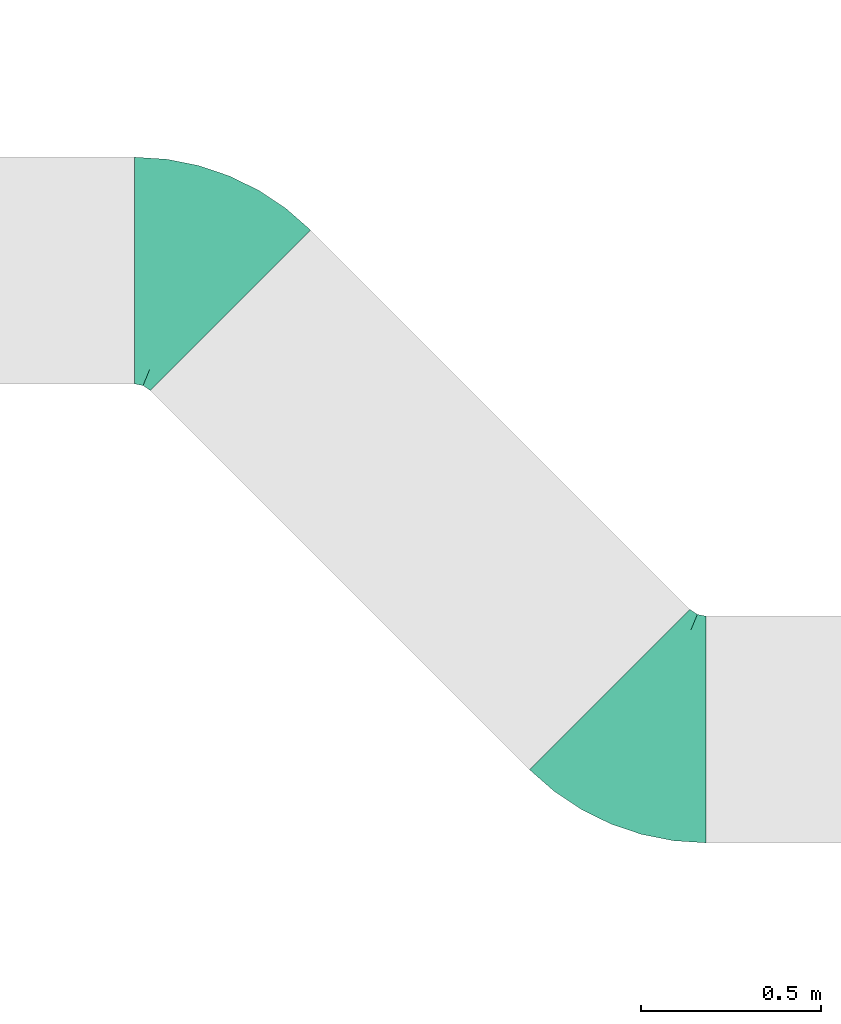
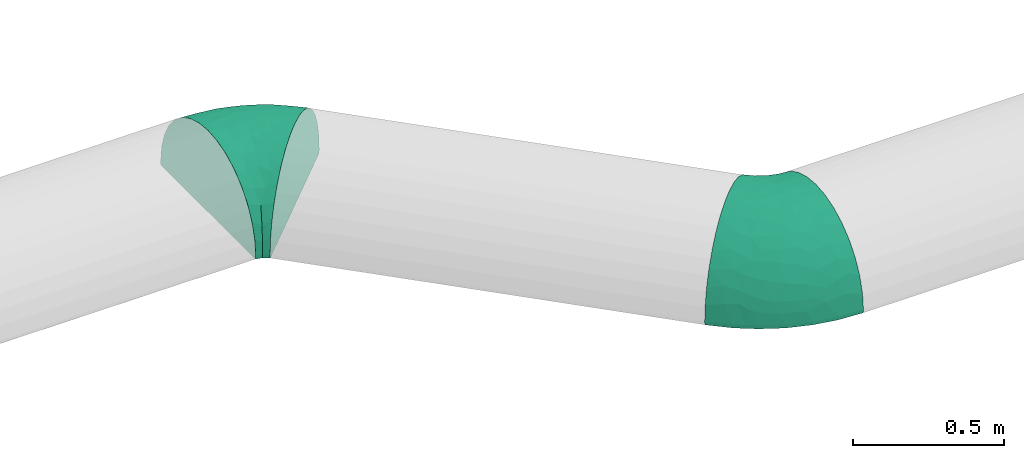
# One storey, part 9 of 10: 2 flow fittings.
"""IFC2X3 building model written with IfcOpenShell, lengths in millimetres."""

from ifc_helpers import new_model, entity, si_unit, converted_unit, derived_unit, direction, frame, place, context, subcontext, project, spatial, faceted_brep, type_object, element, save


model = new_model("IFC2X3")

# Units and contexts
model_context = context("Model", 3, precision=0.01, world=frame((0.0, 4.29681676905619e-09, 0.0)), true_north=direction((4.01073788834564e-13, 1.0)))
plan_context = context("Plan", 3, precision=0.01, world=frame((0.0, 4.29681676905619e-09, 0.0)), true_north=direction((4.01073788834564e-13, 1.0)))
body_context = subcontext(model_context, "Body", "Model", "MODEL_VIEW")
ifc_project = project(units=[converted_unit("PLANEANGLEUNIT", "DEGREE", entity("IfcPositiveLengthMeasure", 0.0174532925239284), si_unit("PLANEANGLEUNIT", "RADIAN"), dimensions=[0, 0, 0, 0, 0, 0, 0]), si_unit("AREAUNIT", "SQUARE_METRE"), si_unit("LENGTHUNIT", "METRE", prefix="MILLI"), si_unit("MASSUNIT", "GRAM", prefix="KILO"), si_unit("POWERUNIT", "WATT"), si_unit("PRESSUREUNIT", "PASCAL"), si_unit("FORCEUNIT", "NEWTON", prefix="KILO"), si_unit("ELECTRICCURRENTUNIT", "AMPERE"), si_unit("THERMODYNAMICTEMPERATUREUNIT", "DEGREE_CELSIUS"), si_unit("TIMEUNIT", "SECOND"), si_unit("VOLUMEUNIT", "CUBIC_METRE"), derived_unit("LINEARVELOCITYUNIT", [(si_unit("LENGTHUNIT", "METRE"), 1), (si_unit("TIMEUNIT", "SECOND"), -1)]), derived_unit("VOLUMETRICFLOWRATEUNIT", [(si_unit("VOLUMEUNIT", "CUBIC_METRE"), 1), (si_unit("TIMEUNIT", "SECOND"), -1)]), derived_unit("THERMALTRANSMITTANCEUNIT", [(si_unit("POWERUNIT", "WATT"), 1), (si_unit("THERMODYNAMICTEMPERATUREUNIT", "KELVIN"), -1), (si_unit("AREAUNIT", "SQUARE_METRE"), -1)])], contexts=[model_context, plan_context])

# Site, building, storey
site_placement = place(None, frame((0.0, -4.29681676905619e-09, 0.0), z_axis=(0.0, 0.0, 1.0), x_axis=(1.0, 0.0, 0.0)))
site = spatial("IfcSite", under=ifc_project, at=site_placement, CompositionType="ELEMENT")
building_placement = place(site_placement, frame((0.0, 4.29681676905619e-09, 0.0), z_axis=(0.0, 0.0, 1.0), x_axis=(1.0, 0.0, 0.0)))
building = spatial("IfcBuilding", under=site, at=building_placement, Name="mc-building", CompositionType="ELEMENT")
storey_placement = place(building_placement, frame((0.0, 0.0, 200300.0), z_axis=(0.0, 0.0, 1.0), x_axis=(1.0, 0.0, 0.0)))
storey = spatial("IfcBuildingStorey", under=building, at=storey_placement, Name="Nivå C", CompositionType="ELEMENT", Elevation=200300.0)

# Flow fittings
duct_fitting_type = type_object("IfcDuctFittingType", Name="magicirc_elbow_short_001", PredefinedType="BEND")
flow_fitting_1_placement = place(storey_placement, frame((517261.78125, 411281.0, 2715.0), z_axis=(0.0, 0.0, 1.0), x_axis=(-0.707106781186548, 0.707106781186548, 0.0)))
element("IfcFlowFitting", 1, at=flow_fitting_1_placement, inside=storey, type_object=duct_fitting_type, Name="magicirc_elbow_short_001", context=body_context, shape_type="Brep", body=[
    faceted_brep([(-156.57273, -313.522625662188, -15.0), (-156.57273, -162.702443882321, -15.0), (-156.57273, -315.0, 0.0), (-156.57273, 313.522625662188, -15.0), (-156.57273, 315.0, 0.0), (-156.57273, -222.73864, 222.73864), (-156.57273, -308.94735, 61.45345), (-156.57273, -291.02204, 120.54529), (-156.57273, -261.91292, 175.00462), (-156.57273, 61.45345, 308.94735), (-156.57273, -175.00462, 261.91292), (-156.57273, -61.45345, 308.94735), (-156.57273, 0.0, 315.0), (-156.57273, -120.54529, 291.02204), (-156.57273, 222.73864, 222.73864), (-156.57273, 175.00462, 261.91292), (-156.57273, 120.54529, 291.02204), (-156.57273, 308.94735, 61.45345), (-156.57273, 261.91292, 175.00462), (-156.57273, 291.02204, 120.54529), (-104.937846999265, 326.365126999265, -15.0001016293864), (-77.0594836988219, 298.486762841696, -15.000101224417), (-112.025, 333.45228, 0.0), (84.2447156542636, 137.182548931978, -15.0010429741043), (-95.07003, 316.49729, 120.54529), (158.052910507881, 63.3743635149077, -15.0009110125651), (-46.78636, 268.21364, 222.73864), (220.316167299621, 1.11110270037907, -15.0002036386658), (67.25948, 154.16779, 308.94735), (284.770704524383, -63.3434305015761, -15.0001948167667), (268.21364, -46.78636, 222.73864), (330.234755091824, -108.807475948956, -15.0002164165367), (333.45228, -112.025, 0.0), (316.49729, -95.07003, 120.54529), (329.17242, -107.74514, 61.45345), (295.91404, -74.48677, 175.00462), (331.342094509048, -109.914816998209, -15.0028352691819), (332.407534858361, -110.980254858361, -15.0012367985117), (234.4606, -13.03332, 261.91292), (154.16779, 67.25948, 308.94735), (110.71364, 110.71364, 315.0), (195.95203, 25.47525, 291.02204), (-13.03332, 234.4606, 261.91292), (25.47525, 195.95203, 291.02204), (-74.48677, 295.91404, 175.00462), (-107.74514, 329.17242, 61.45345), (-106.355653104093, 327.782933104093, -15.0), (-110.980340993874, 332.407620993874, -15.0), (-69.1788, 98.28548, 303.32883), (-103.18815, 137.218, 286.29822), (-63.56373, 145.87028, 287.85212), (-23.03173, 84.61123, 310.04546), (-24.06275, 169.9928, 286.29822), (-78.98637, 190.68994, 261.74409), (-50.09666, 221.58455, 252.16235), (-82.85164, 253.22455, 211.90038), (-114.29281, 275.92723, 166.31154), (-120.47185, 237.64176, 211.90038), (-121.26026, 192.10762, 252.16235), (-108.97903, 80.13704, 305.60489), (-120.04051, 21.57121, 314.38314), (-72.93723, 14.96959, 314.95269), (-51.32282, 52.93784, 312.89874), (-22.61288, 5.88574, 314.51394), (-49.4951, -24.41314, 312.64876), (-102.18653, -42.98473, 311.55144), (-39.73703, -67.19447, 304.06678), (18.9701, -45.79794, 304.48316), (9.38154, -103.44024, 286.35821), (-37.48165, -112.43527, 288.40126), (8.63747, -148.4273, 262.75168), (-39.60369, -163.18888, 261.45699), (-86.18068, -104.84619, 295.18796), (-102.50615, -158.52715, 270.6016), (-97.23886, -208.88262, 233.09715), (-80.86841, -251.39761, 183.63745), (-16.92433, -220.44586, 208.04239), (-24.55467, -254.26311, 165.69601), (-34.1256, -280.90317, 117.70077), (13.26489, -277.43879, 98.85769), (-6.71661, -292.99434, 58.47592), (39.43986, -283.24089, 45.6037), (59.91756, -267.248, 87.51982), (30.69597, -247.39286, 153.9285), (102.32705, -228.19892, 142.01391), (104.77862, -250.85, 86.12694), (148.3429, -231.85854, 83.11677), (162.22033, -204.09557, 132.72111), (189.96299, -208.51086, 85.28279), (220.74556, -179.01978, 111.02522), (189.11035, -165.11365, 169.05373), (253.88425, -145.87382, 128.67191), (226.77953, -191.35583, 64.21371), (284.48919, -144.49324, 75.71434), (285.52999, -112.12506, 140.2424), (245.9957, -108.28443, 187.26034), (205.29396, -92.14908, 229.95035), (164.01968, -137.81243, 215.95297), (136.78809, -94.09597, 260.01013), (110.65003, -144.85352, 235.51538), (94.19844, -106.84865, 266.54763), (89.45677, -54.27607, 291.49943), (140.68797, -5.97514, 296.0552), (182.98391, -41.68599, 270.24152), (112.78616, 56.37757, 312.25194), (83.48947, 17.37206, 310.12159), (58.46281, 84.1732, 314.69351), (20.93585, 134.47437, 305.53288), (18.18904, 78.0699, 313.48381), (20.38675, 29.52839, 314.73867), (57.88992, -22.3422, 305.6526), (55.89296, -89.8795, 284.1951), (57.37725, -134.20034, 260.50814), (70.87883, -168.34825, 231.3295), (-1.17554, -186.93521, 236.63272), (60.87911, -202.67108, 201.58359), (127.24687, -182.31133, 191.51469), (307.49264, -134.79099, 0.0), (312.784396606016, -128.189444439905, -15.0), (302.359024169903, -137.235849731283, -15.0), (-9.02958368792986, -296.511113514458, -15.0), (-22.5637488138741, -299.357531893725, -15.0), (-21.6646, -300.22895, 0.0), (-55.6441643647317, -305.937630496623, -15.0), (-66.11808, -309.07129, 0.0), (-72.0014284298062, -307.906902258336, -15.0), (-116.759709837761, -310.840505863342, -15.0), (-122.1185, -312.74174, 0.0), (-130.528336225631, -311.815578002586, -15.0), (-91.05773, -303.16209, 73.4979), (-99.82817, -282.36418, 134.59297), (-48.92146, -296.29754, 79.36992), (-118.013964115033, 328.102919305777, -15.0), (-132.026457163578, 318.740072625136, -15.0), (-132.46367, 319.7956, 0.0), (-148.555323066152, 315.452270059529, -15.0), (-131.0731, 316.43846, 47.708), (-125.4043, 302.75274, 106.21365), (22.78887, -291.38659, 0.0), (22.1633903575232, -290.306434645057, -15.0), (52.2796347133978, -280.083347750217, -15.0), (65.70788, -276.81755, 0.0), (72.8363150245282, -273.691596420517, -15.0), (101.07091036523, -264.107243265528, -15.0), (108.62689, -262.24851, 0.0), (85.57396, -268.0606, 43.73739), (127.11369, -251.00261, 43.25426), (149.27708, -242.20206, 0.0), (142.323303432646, -244.897392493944, -15.0), (115.581265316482, -258.085102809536, -15.0), (171.18274, -229.41071, 41.93156), (189.92727, -222.15561, 0.0), (189.60575865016, -220.949538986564, -15.0), (161.08154396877, -235.016121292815, -15.0), (216.049890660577, -203.280130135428, -15.0), (227.61311, -196.97473, 0.0), (227.632717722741, -195.722752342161, -15.0), (255.676933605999, -176.984203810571, -15.0), (265.29894, -171.79386, 0.0), (268.63575034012, -166.810357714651, -15.0), (332.407620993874, -110.980340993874, -15.0), (331.342493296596, -109.915215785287, -15.0), (330.234801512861, -108.807522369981, -15.0), (284.770690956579, -63.3434169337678, -15.0), (220.316071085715, 1.11119891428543, -15.0), (158.052125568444, 63.3751484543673, -15.0), (84.2433358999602, 137.183928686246, -15.0), (-77.0597196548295, 298.486998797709, -15.0000000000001), (-104.937895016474, 326.365175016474, -15.0000000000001)], [[[0, 1, 2]], [[1, 3, 4, 2]], [[5, 2, 4]], [[2, 5, 6]], [[7, 6, 5]], [[5, 8, 7]], [[4, 9, 5]], [[10, 5, 9]], [[11, 10, 9]], [[9, 12, 11]], [[13, 10, 11]], [[14, 9, 4]], [[14, 15, 9]], [[16, 9, 15]], [[14, 4, 17]], [[14, 17, 18]], [[19, 18, 17]], [[20, 21, 22]], [[21, 23, 24, 22]], [[23, 25, 26, 24]], [[25, 27, 28, 26]], [[27, 29, 30, 28]], [[29, 31, 32, 30]], [[32, 33, 30]], [[34, 33, 32]], [[33, 35, 30]], [[31, 36, 32]], [[36, 37, 32]], [[28, 30, 38]], [[38, 39, 28]], [[28, 39, 40]], [[39, 38, 41]], [[28, 42, 26]], [[42, 28, 43]], [[44, 24, 26]], [[24, 45, 22]], [[46, 20, 22]], [[47, 46, 22]], [[48, 49, 50]], [[48, 50, 51]], [[52, 51, 50]], [[50, 53, 52]], [[53, 54, 52]], [[55, 54, 53]], [[26, 54, 55]], [[55, 44, 26]], [[44, 55, 56]], [[55, 57, 56]], [[57, 18, 56]], [[57, 14, 18]], [[14, 57, 58]], [[53, 58, 57]], [[53, 49, 58]], [[15, 58, 49]], [[49, 16, 15]], [[49, 59, 16]], [[59, 9, 16]], [[9, 59, 60]], [[61, 60, 59]], [[61, 59, 62]], [[63, 61, 62]], [[61, 63, 64]], [[61, 64, 65]], [[66, 65, 64]], [[66, 64, 67]], [[68, 66, 67]], [[68, 69, 66]], [[68, 70, 69]], [[71, 69, 70]], [[69, 71, 72]], [[71, 73, 72]], [[71, 74, 73]], [[10, 73, 74]], [[10, 74, 5]], [[5, 74, 75]], [[75, 74, 76]], [[77, 75, 76]], [[77, 78, 75]], [[78, 77, 79]], [[78, 79, 80]], [[80, 79, 81]], [[82, 81, 79]], [[82, 79, 83]], [[83, 84, 82]], [[85, 82, 84]], [[85, 84, 86]], [[87, 86, 84]], [[88, 86, 87]], [[87, 89, 88]], [[90, 89, 87]], [[89, 90, 91]], [[91, 92, 89]], [[91, 93, 92]], [[91, 94, 93]], [[91, 95, 94]], [[35, 94, 95]], [[94, 35, 33]], [[30, 35, 95]], [[96, 30, 95]], [[96, 95, 90]], [[96, 90, 97]], [[97, 98, 96]], [[98, 97, 99]], [[98, 99, 100]], [[98, 100, 101]], [[98, 101, 102]], [[102, 103, 98]], [[41, 103, 102]], [[103, 41, 38]], [[103, 38, 96]], [[41, 102, 39]], [[102, 104, 39]], [[105, 104, 102]], [[104, 105, 106]], [[40, 104, 106]], [[106, 28, 40]], [[107, 28, 106]], [[106, 108, 107]], [[108, 106, 109]], [[51, 108, 109]], [[51, 109, 63]], [[63, 109, 67]], [[67, 109, 110]], [[67, 110, 111]], [[110, 101, 111]], [[101, 110, 105]], [[105, 110, 109]], [[51, 107, 108]], [[107, 43, 28]], [[107, 52, 43]], [[43, 52, 42]], [[109, 106, 105]], [[39, 104, 40]], [[105, 102, 101]], [[100, 111, 101]], [[112, 111, 100]], [[112, 68, 111]], [[112, 100, 99]], [[112, 99, 113]], [[70, 112, 113]], [[113, 114, 70]], [[113, 115, 114]], [[115, 113, 116]], [[115, 116, 84]], [[114, 115, 76]], [[114, 76, 71]], [[83, 76, 115]], [[99, 116, 113]], [[99, 97, 116]], [[96, 98, 103]], [[116, 97, 90]], [[96, 38, 30]], [[93, 94, 33]], [[34, 93, 33]], [[34, 117, 93]], [[34, 32, 117]], [[37, 118, 117, 32]], [[118, 119, 117]], [[120, 121, 122]], [[121, 123, 124, 122]], [[123, 125, 124]], [[125, 126, 127, 124]], [[126, 128, 127]], [[128, 0, 2, 127]], [[127, 2, 6]], [[6, 129, 127]], [[129, 6, 7]], [[130, 129, 7]], [[131, 129, 130]], [[124, 129, 131]], [[78, 131, 130]], [[130, 7, 8]], [[130, 8, 75]], [[132, 47, 22]], [[133, 132, 22, 134]], [[135, 133, 134, 4]], [[3, 135, 4]], [[136, 4, 134]], [[17, 4, 136]], [[17, 136, 137]], [[45, 137, 136]], [[45, 136, 22]], [[137, 45, 24]], [[56, 137, 24]], [[19, 137, 56]], [[137, 19, 17]], [[22, 136, 134]], [[127, 129, 124]], [[131, 122, 124]], [[122, 131, 80]], [[138, 122, 80]], [[139, 120, 122, 138]], [[140, 139, 138, 141]], [[142, 140, 141]], [[143, 142, 141, 144]], [[145, 144, 141]], [[146, 144, 145]], [[147, 144, 146]], [[148, 149, 144, 147]], [[150, 147, 146]], [[86, 150, 146]], [[150, 151, 147]], [[152, 153, 147, 151]], [[154, 152, 151, 155]], [[156, 154, 155]], [[157, 156, 155, 158]], [[159, 157, 158]], [[155, 92, 158]], [[155, 151, 92]], [[151, 150, 92]], [[88, 92, 150]], [[85, 146, 145]], [[145, 141, 81]], [[141, 138, 81]], [[149, 143, 144]], [[153, 148, 147]], [[119, 159, 158, 117]], [[158, 93, 117]], [[158, 92, 93]], [[91, 90, 95]], [[90, 87, 116]], [[88, 89, 92]], [[86, 88, 150]], [[84, 116, 87]], [[146, 85, 86]], [[85, 145, 82]], [[115, 84, 83]], [[82, 145, 81]], [[138, 80, 81]], [[78, 80, 131]], [[83, 79, 77]], [[130, 75, 78]], [[83, 77, 76]], [[75, 8, 5]], [[10, 13, 73]], [[71, 76, 74]], [[72, 73, 13]], [[11, 72, 13]], [[72, 11, 65]], [[11, 12, 65]], [[12, 60, 65]], [[71, 70, 114]], [[68, 112, 70]], [[69, 72, 66]], [[68, 67, 111]], [[72, 65, 66]], [[64, 63, 67]], [[63, 62, 51]], [[48, 62, 59]], [[61, 65, 60]], [[9, 60, 12]], [[14, 58, 15]], [[56, 18, 19]], [[56, 24, 44]], [[54, 26, 42]], [[57, 55, 53]], [[52, 54, 42]], [[52, 107, 51]], [[51, 62, 48]], [[59, 49, 48]], [[49, 53, 50]], [[128, 126, 125, 123, 121, 120, 139, 140, 142, 143, 149, 148, 153, 152, 154, 156, 157, 159, 119, 118, 160, 161, 162, 163, 164, 165, 166, 167, 168, 46, 47, 132, 133, 135, 3, 1, 0]]], orient=[[False], [False], [False], [False], [False], [False], [False], [False], [False], [False], [False], [False], [False], [False], [False], [False], [False], [False], [False], [False], [False], [False], [False], [False], [False], [False], [False], [False], [False], [False], [False], [False], [False], [False], [False], [False], [False], [False], [False], [False], [False], [False], [False], [False], [False], [False], [False], [False], [False], [False], [False], [False], [False], [False], [False], [False], [False], [False], [False], [False], [False], [False], [False], [False], [False], [False], [False], [False], [False], [False], [False], [False], [False], [False], [False], [False], [False], [False], [False], [False], [False], [False], [False], [False], [False], [False], [False], [False], [False], [False], [False], [False], [False], [False], [False], [False], [False], [False], [False], [False], [False], [False], [False], [False], [False], [False], [False], [False], [False], [False], [False], [False], [False], [False], [False], [False], [False], [False], [False], [False], [False], [False], [False], [False], [False], [False], [False], [False], [False], [False], [False], [False], [False], [False], [False], [False], [False], [False], [False], [False], [False], [False], [False], [False], [False], [False], [False], [False], [False], [False], [False], [False], [False], [False], [False], [False], [False], [False], [False], [False], [False], [False], [False], [False], [False], [False], [False], [False], [False], [False], [False], [False], [False], [False], [False], [False], [False], [False], [False], [False], [False], [False], [False], [False], [False], [False], [False], [False], [False], [False], [False], [False], [False], [False], [False], [False], [False], [False], [False], [False], [False], [False], [False], [False], [False], [False], [False], [False], [False], [False], [False], [False], [False], [False], [False], [False], [False], [False], [False], [False], [False], [False], [False], [False], [False], [False], [False], [False], [False], [False], [False], [False], [False], [False], [False], [False], [False], [False], [False], [False], [False], [False], [False], [False], [False], [False], [False], [False], [False], [False], [False], [False], [False], [False], [False], [False], [False], [False], [False], [False], [False], [False]]),
])
flow_fitting_2_placement = place(storey_placement, frame((518537.24375, 410005.5375, 2715.0), z_axis=(0.0, 0.0, 1.0), x_axis=(0.707106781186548, -0.707106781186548, 0.0)))
element("IfcFlowFitting", 2, at=flow_fitting_2_placement, inside=storey, type_object=duct_fitting_type, Name="magicirc_elbow_short_001", context=body_context, shape_type="Brep", body=[
    faceted_brep([(-156.57273, -313.522625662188, -15.0), (-156.57273, -162.702443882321, -15.0), (-156.57273, -315.0, 0.0), (-156.57273, 313.522625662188, -15.0), (-156.57273, 315.0, 0.0), (-156.57273, -222.73864, 222.73864), (-156.57273, -308.94735, 61.45345), (-156.57273, -291.02204, 120.54529), (-156.57273, -261.91292, 175.00462), (-156.57273, 61.45345, 308.94735), (-156.57273, -175.00462, 261.91292), (-156.57273, -61.45345, 308.94735), (-156.57273, 0.0, 315.0), (-156.57273, -120.54529, 291.02204), (-156.57273, 222.73864, 222.73864), (-156.57273, 175.00462, 261.91292), (-156.57273, 120.54529, 291.02204), (-156.57273, 308.94735, 61.45345), (-156.57273, 261.91292, 175.00462), (-156.57273, 291.02204, 120.54529), (-104.937849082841, 326.365129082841, -15.0000972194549), (-77.0594939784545, 298.486773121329, -15.0000968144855), (-112.025, 333.45228, 0.0), (84.2446541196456, 137.182610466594, -15.0009964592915), (-95.07003, 316.49729, 120.54529), (158.052875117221, 63.3743989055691, -15.0008699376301), (-46.78636, 268.21364, 222.73864), (220.316162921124, 1.11110707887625, -15.0001943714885), (67.25948, 154.16779, 308.94735), (284.770703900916, -63.3434298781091, -15.0001858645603), (268.21364, -46.78636, 222.73864), (330.234757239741, -108.807478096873, -15.000206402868), (333.45228, -112.025, 0.0), (316.49729, -95.07003, 120.54529), (329.17242, -107.74514, 61.45345), (295.91404, -74.48677, 175.00462), (331.342078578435, -109.914801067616, -15.0029485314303), (332.407531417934, -110.980251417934, -15.0012861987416), (234.4606, -13.03332, 261.91292), (154.16779, 67.25948, 308.94735), (110.71364, 110.71364, 315.0), (195.95203, 25.47525, 291.02204), (-13.03332, 234.4606, 261.91292), (25.47525, 195.95203, 291.02204), (-74.48677, 295.91404, 175.00462), (-107.74514, 329.17242, 61.45345), (-106.355653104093, 327.782933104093, -15.0), (-110.980340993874, 332.407620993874, -15.0), (-69.1788, 98.28548, 303.32883), (-103.18815, 137.218, 286.29822), (-63.56373, 145.87028, 287.85212), (-23.03173, 84.61123, 310.04546), (-24.06275, 169.9928, 286.29822), (-78.98637, 190.68994, 261.74409), (-50.09666, 221.58455, 252.16235), (-82.85164, 253.22455, 211.90038), (-114.29281, 275.92723, 166.31154), (-120.47185, 237.64176, 211.90038), (-121.26026, 192.10762, 252.16235), (-108.97903, 80.13704, 305.60489), (-120.04051, 21.57121, 314.38314), (-72.93723, 14.96959, 314.95269), (-51.32282, 52.93784, 312.89874), (-22.61288, 5.88574, 314.51394), (-49.4951, -24.41314, 312.64876), (-102.18653, -42.98473, 311.55144), (-39.73703, -67.19447, 304.06678), (18.9701, -45.79794, 304.48316), (9.38154, -103.44024, 286.35821), (-37.48165, -112.43527, 288.40126), (8.63747, -148.4273, 262.75168), (-39.60369, -163.18888, 261.45699), (-86.18068, -104.84619, 295.18796), (-102.50615, -158.52715, 270.6016), (-97.23886, -208.88262, 233.09715), (-80.86841, -251.39761, 183.63745), (-16.92433, -220.44586, 208.04239), (-24.55467, -254.26311, 165.69601), (-34.1256, -280.90317, 117.70077), (13.26489, -277.43879, 98.85769), (-6.71661, -292.99434, 58.47592), (39.43986, -283.24089, 45.6037), (59.91756, -267.248, 87.51982), (30.69597, -247.39286, 153.9285), (102.32705, -228.19892, 142.01391), (104.77862, -250.85, 86.12694), (148.3429, -231.85854, 83.11677), (162.22033, -204.09557, 132.72111), (189.96299, -208.51086, 85.28279), (220.74556, -179.01978, 111.02522), (189.11035, -165.11365, 169.05373), (253.88425, -145.87382, 128.67191), (226.77953, -191.35583, 64.21371), (284.48919, -144.49324, 75.71434), (285.52999, -112.12506, 140.2424), (245.9957, -108.28443, 187.26034), (205.29396, -92.14908, 229.95035), (164.01968, -137.81243, 215.95297), (136.78809, -94.09597, 260.01013), (110.65003, -144.85352, 235.51538), (94.19844, -106.84865, 266.54763), (89.45677, -54.27607, 291.49943), (140.68797, -5.97514, 296.0552), (182.98391, -41.68599, 270.24152), (112.78616, 56.37757, 312.25194), (83.48947, 17.37206, 310.12159), (58.46281, 84.1732, 314.69351), (20.93585, 134.47437, 305.53288), (18.18904, 78.0699, 313.48381), (20.38675, 29.52839, 314.73867), (57.88992, -22.3422, 305.6526), (55.89296, -89.8795, 284.1951), (57.37725, -134.20034, 260.50814), (70.87883, -168.34825, 231.3295), (-1.17554, -186.93521, 236.63272), (60.87911, -202.67108, 201.58359), (127.24687, -182.31133, 191.51469), (307.49264, -134.79099, 0.0), (312.784396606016, -128.189444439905, -15.0), (302.359024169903, -137.235849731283, -15.0), (-9.02958368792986, -296.511113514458, -15.0), (-22.5637488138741, -299.357531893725, -15.0), (-21.6646, -300.22895, 0.0), (-55.6441643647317, -305.937630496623, -15.0), (-66.11808, -309.07129, 0.0), (-72.0014284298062, -307.906902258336, -15.0), (-116.759709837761, -310.840505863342, -15.0), (-122.1185, -312.74174, 0.0), (-130.528336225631, -311.815578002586, -15.0), (-91.05773, -303.16209, 73.4979), (-99.82817, -282.36418, 134.59297), (-48.92146, -296.29754, 79.36992), (-118.013964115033, 328.102919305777, -15.0), (-132.026457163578, 318.740072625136, -15.0), (-132.46367, 319.7956, 0.0), (-148.555323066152, 315.452270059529, -15.0), (-131.0731, 316.43846, 47.708), (-125.4043, 302.75274, 106.21365), (22.78887, -291.38659, 0.0), (22.1633903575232, -290.306434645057, -15.0), (52.2796347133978, -280.083347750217, -15.0), (65.70788, -276.81755, 0.0), (72.8363150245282, -273.691596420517, -15.0), (101.07091036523, -264.107243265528, -15.0), (108.62689, -262.24851, 0.0), (85.57396, -268.0606, 43.73739), (127.11369, -251.00261, 43.25426), (149.27708, -242.20206, 0.0), (142.323303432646, -244.897392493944, -15.0), (115.581265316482, -258.085102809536, -15.0), (171.18274, -229.41071, 41.93156), (189.92727, -222.15561, 0.0), (189.60575865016, -220.949538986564, -15.0), (161.08154396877, -235.016121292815, -15.0), (216.049890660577, -203.280130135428, -15.0), (227.61311, -196.97473, 0.0), (227.632717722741, -195.722752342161, -15.0), (255.676933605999, -176.984203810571, -15.0), (265.29894, -171.79386, 0.0), (268.63575034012, -166.810357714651, -15.0), (332.407620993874, -110.980340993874, -15.0), (331.342493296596, -109.915215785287, -15.0), (330.234801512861, -108.807522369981, -15.0), (284.770690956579, -63.3434169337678, -15.0), (220.316071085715, 1.11119891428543, -15.0), (158.052125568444, 63.3751484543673, -15.0), (84.2433358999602, 137.183928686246, -15.0), (-77.0597196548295, 298.486998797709, -15.0000000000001), (-104.937895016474, 326.365175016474, -15.0000000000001)], [[[0, 1, 2]], [[1, 3, 4, 2]], [[5, 2, 4]], [[2, 5, 6]], [[7, 6, 5]], [[5, 8, 7]], [[4, 9, 5]], [[10, 5, 9]], [[11, 10, 9]], [[9, 12, 11]], [[13, 10, 11]], [[14, 9, 4]], [[14, 15, 9]], [[16, 9, 15]], [[14, 4, 17]], [[14, 17, 18]], [[19, 18, 17]], [[20, 21, 22]], [[21, 23, 24, 22]], [[23, 25, 26, 24]], [[25, 27, 28, 26]], [[27, 29, 30, 28]], [[29, 31, 32, 30]], [[32, 33, 30]], [[34, 33, 32]], [[33, 35, 30]], [[31, 36, 32]], [[36, 37, 32]], [[28, 30, 38]], [[38, 39, 28]], [[28, 39, 40]], [[39, 38, 41]], [[28, 42, 26]], [[42, 28, 43]], [[44, 24, 26]], [[24, 45, 22]], [[46, 20, 22]], [[47, 46, 22]], [[48, 49, 50]], [[48, 50, 51]], [[52, 51, 50]], [[50, 53, 52]], [[53, 54, 52]], [[55, 54, 53]], [[26, 54, 55]], [[55, 44, 26]], [[44, 55, 56]], [[55, 57, 56]], [[57, 18, 56]], [[57, 14, 18]], [[14, 57, 58]], [[53, 58, 57]], [[53, 49, 58]], [[15, 58, 49]], [[49, 16, 15]], [[49, 59, 16]], [[59, 9, 16]], [[9, 59, 60]], [[61, 60, 59]], [[61, 59, 62]], [[63, 61, 62]], [[61, 63, 64]], [[61, 64, 65]], [[66, 65, 64]], [[66, 64, 67]], [[68, 66, 67]], [[68, 69, 66]], [[68, 70, 69]], [[71, 69, 70]], [[69, 71, 72]], [[71, 73, 72]], [[71, 74, 73]], [[10, 73, 74]], [[10, 74, 5]], [[5, 74, 75]], [[75, 74, 76]], [[77, 75, 76]], [[77, 78, 75]], [[78, 77, 79]], [[78, 79, 80]], [[80, 79, 81]], [[82, 81, 79]], [[82, 79, 83]], [[83, 84, 82]], [[85, 82, 84]], [[85, 84, 86]], [[87, 86, 84]], [[88, 86, 87]], [[87, 89, 88]], [[90, 89, 87]], [[89, 90, 91]], [[91, 92, 89]], [[91, 93, 92]], [[91, 94, 93]], [[91, 95, 94]], [[35, 94, 95]], [[94, 35, 33]], [[30, 35, 95]], [[96, 30, 95]], [[96, 95, 90]], [[96, 90, 97]], [[97, 98, 96]], [[98, 97, 99]], [[98, 99, 100]], [[98, 100, 101]], [[98, 101, 102]], [[102, 103, 98]], [[41, 103, 102]], [[103, 41, 38]], [[103, 38, 96]], [[41, 102, 39]], [[102, 104, 39]], [[105, 104, 102]], [[104, 105, 106]], [[40, 104, 106]], [[106, 28, 40]], [[107, 28, 106]], [[106, 108, 107]], [[108, 106, 109]], [[51, 108, 109]], [[51, 109, 63]], [[63, 109, 67]], [[67, 109, 110]], [[67, 110, 111]], [[110, 101, 111]], [[101, 110, 105]], [[105, 110, 109]], [[51, 107, 108]], [[107, 43, 28]], [[107, 52, 43]], [[43, 52, 42]], [[109, 106, 105]], [[39, 104, 40]], [[105, 102, 101]], [[100, 111, 101]], [[112, 111, 100]], [[112, 68, 111]], [[112, 100, 99]], [[112, 99, 113]], [[70, 112, 113]], [[113, 114, 70]], [[113, 115, 114]], [[115, 113, 116]], [[115, 116, 84]], [[114, 115, 76]], [[114, 76, 71]], [[83, 76, 115]], [[99, 116, 113]], [[99, 97, 116]], [[96, 98, 103]], [[116, 97, 90]], [[96, 38, 30]], [[93, 94, 33]], [[34, 93, 33]], [[34, 117, 93]], [[34, 32, 117]], [[37, 118, 117, 32]], [[118, 119, 117]], [[120, 121, 122]], [[121, 123, 124, 122]], [[123, 125, 124]], [[125, 126, 127, 124]], [[126, 128, 127]], [[128, 0, 2, 127]], [[127, 2, 6]], [[6, 129, 127]], [[129, 6, 7]], [[130, 129, 7]], [[131, 129, 130]], [[124, 129, 131]], [[78, 131, 130]], [[130, 7, 8]], [[130, 8, 75]], [[132, 47, 22]], [[133, 132, 22, 134]], [[135, 133, 134, 4]], [[3, 135, 4]], [[136, 4, 134]], [[17, 4, 136]], [[17, 136, 137]], [[45, 137, 136]], [[45, 136, 22]], [[137, 45, 24]], [[56, 137, 24]], [[19, 137, 56]], [[137, 19, 17]], [[22, 136, 134]], [[127, 129, 124]], [[131, 122, 124]], [[122, 131, 80]], [[138, 122, 80]], [[139, 120, 122, 138]], [[140, 139, 138, 141]], [[142, 140, 141]], [[143, 142, 141, 144]], [[145, 144, 141]], [[146, 144, 145]], [[147, 144, 146]], [[148, 149, 144, 147]], [[150, 147, 146]], [[86, 150, 146]], [[150, 151, 147]], [[152, 153, 147, 151]], [[154, 152, 151, 155]], [[156, 154, 155]], [[157, 156, 155, 158]], [[159, 157, 158]], [[155, 92, 158]], [[155, 151, 92]], [[151, 150, 92]], [[88, 92, 150]], [[85, 146, 145]], [[145, 141, 81]], [[141, 138, 81]], [[149, 143, 144]], [[153, 148, 147]], [[119, 159, 158, 117]], [[158, 93, 117]], [[158, 92, 93]], [[91, 90, 95]], [[90, 87, 116]], [[88, 89, 92]], [[86, 88, 150]], [[84, 116, 87]], [[146, 85, 86]], [[85, 145, 82]], [[115, 84, 83]], [[82, 145, 81]], [[138, 80, 81]], [[78, 80, 131]], [[83, 79, 77]], [[130, 75, 78]], [[83, 77, 76]], [[75, 8, 5]], [[10, 13, 73]], [[71, 76, 74]], [[72, 73, 13]], [[11, 72, 13]], [[72, 11, 65]], [[11, 12, 65]], [[12, 60, 65]], [[71, 70, 114]], [[68, 112, 70]], [[69, 72, 66]], [[68, 67, 111]], [[72, 65, 66]], [[64, 63, 67]], [[63, 62, 51]], [[48, 62, 59]], [[61, 65, 60]], [[9, 60, 12]], [[14, 58, 15]], [[56, 18, 19]], [[56, 24, 44]], [[54, 26, 42]], [[57, 55, 53]], [[52, 54, 42]], [[52, 107, 51]], [[51, 62, 48]], [[59, 49, 48]], [[49, 53, 50]], [[128, 126, 125, 123, 121, 120, 139, 140, 142, 143, 149, 148, 153, 152, 154, 156, 157, 159, 119, 118, 160, 161, 162, 163, 164, 165, 166, 167, 168, 46, 47, 132, 133, 135, 3, 1, 0]]], orient=[[False], [False], [False], [False], [False], [False], [False], [False], [False], [False], [False], [False], [False], [False], [False], [False], [False], [False], [False], [False], [False], [False], [False], [False], [False], [False], [False], [False], [False], [False], [False], [False], [False], [False], [False], [False], [False], [False], [False], [False], [False], [False], [False], [False], [False], [False], [False], [False], [False], [False], [False], [False], [False], [False], [False], [False], [False], [False], [False], [False], [False], [False], [False], [False], [False], [False], [False], [False], [False], [False], [False], [False], [False], [False], [False], [False], [False], [False], [False], [False], [False], [False], [False], [False], [False], [False], [False], [False], [False], [False], [False], [False], [False], [False], [False], [False], [False], [False], [False], [False], [False], [False], [False], [False], [False], [False], [False], [False], [False], [False], [False], [False], [False], [False], [False], [False], [False], [False], [False], [False], [False], [False], [False], [False], [False], [False], [False], [False], [False], [False], [False], [False], [False], [False], [False], [False], [False], [False], [False], [False], [False], [False], [False], [False], [False], [False], [False], [False], [False], [False], [False], [False], [False], [False], [False], [False], [False], [False], [False], [False], [False], [False], [False], [False], [False], [False], [False], [False], [False], [False], [False], [False], [False], [False], [False], [False], [False], [False], [False], [False], [False], [False], [False], [False], [False], [False], [False], [False], [False], [False], [False], [False], [False], [False], [False], [False], [False], [False], [False], [False], [False], [False], [False], [False], [False], [False], [False], [False], [False], [False], [False], [False], [False], [False], [False], [False], [False], [False], [False], [False], [False], [False], [False], [False], [False], [False], [False], [False], [False], [False], [False], [False], [False], [False], [False], [False], [False], [False], [False], [False], [False], [False], [False], [False], [False], [False], [False], [False], [False], [False], [False], [False], [False], [False], [False], [False], [False], [False], [False], [False], [False], [False]]),
])

save(model, "model.ifc")
